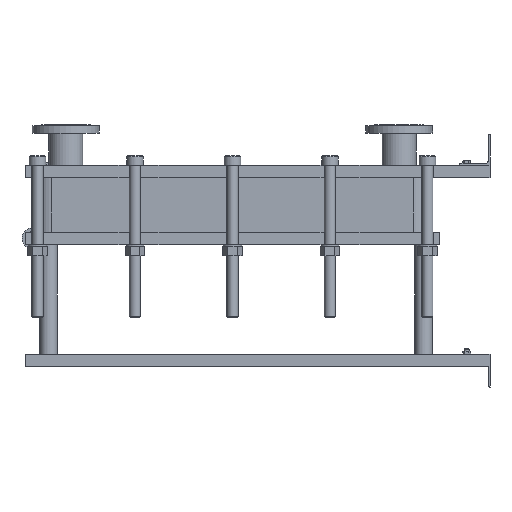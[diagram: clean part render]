
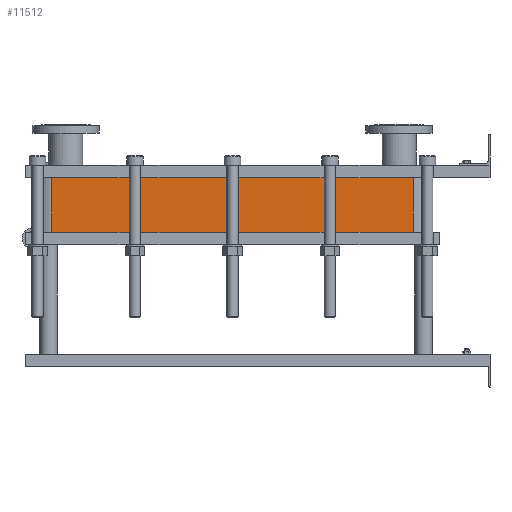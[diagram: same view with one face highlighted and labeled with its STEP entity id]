
A CAD part, left-side view. The second image highlights one B-rep face of the part: STEP entity #11512.
In plain terms, the highlighted planar face has unit normal (-1, 0, 0).
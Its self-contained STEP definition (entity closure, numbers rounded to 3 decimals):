
#1129=LINE('',#23232,#2102);
#1130=LINE('',#23236,#2103);
#1131=LINE('',#23238,#2104);
#1132=LINE('',#23239,#2105);
#2102=VECTOR('',#15887,10.);
#2103=VECTOR('',#15892,10.);
#2104=VECTOR('',#15893,10.);
#2105=VECTOR('',#15894,10.);
#3267=FACE_OUTER_BOUND('',#4093,.T.);
#4093=EDGE_LOOP('',(#10103,#10104,#10105,#10106));
#5642=VERTEX_POINT('',#23229);
#5643=VERTEX_POINT('',#23231);
#5644=VERTEX_POINT('',#23235);
#5645=VERTEX_POINT('',#23237);
#7159=EDGE_CURVE('',#5643,#5642,#1129,.T.);
#7161=EDGE_CURVE('',#5642,#5644,#1130,.T.);
#7162=EDGE_CURVE('',#5645,#5644,#1131,.T.);
#7163=EDGE_CURVE('',#5645,#5643,#1132,.T.);
#10103=ORIENTED_EDGE('',*,*,#7161,.T.);
#10104=ORIENTED_EDGE('',*,*,#7162,.F.);
#10105=ORIENTED_EDGE('',*,*,#7163,.T.);
#10106=ORIENTED_EDGE('',*,*,#7159,.T.);
#10857=PLANE('',#12751);
#11512=ADVANCED_FACE('',(#3267),#10857,.T.);
#12751=AXIS2_PLACEMENT_3D('',#23234,#15890,#15891);
#15887=DIRECTION('',(0.,0.,-1.));
#15890=DIRECTION('center_axis',(-1.,0.,0.));
#15891=DIRECTION('ref_axis',(0.,1.,0.));
#15892=DIRECTION('',(0.,-1.,0.));
#15893=DIRECTION('',(0.,0.,-1.));
#15894=DIRECTION('',(0.,1.,0.));
#23229=CARTESIAN_POINT('',(-200.,1414.,-175.95));
#23231=CARTESIAN_POINT('',(-200.,1414.,0.));
#23232=CARTESIAN_POINT('',(-200.,1414.,0.));
#23234=CARTESIAN_POINT('Origin',(-200.,248.,0.));
#23235=CARTESIAN_POINT('',(-200.,248.,-175.95));
#23236=CARTESIAN_POINT('',(-200.,539.5,-175.95));
#23237=CARTESIAN_POINT('',(-200.,248.,0.));
#23238=CARTESIAN_POINT('',(-200.,248.,0.));
#23239=CARTESIAN_POINT('',(-200.,248.,0.));
